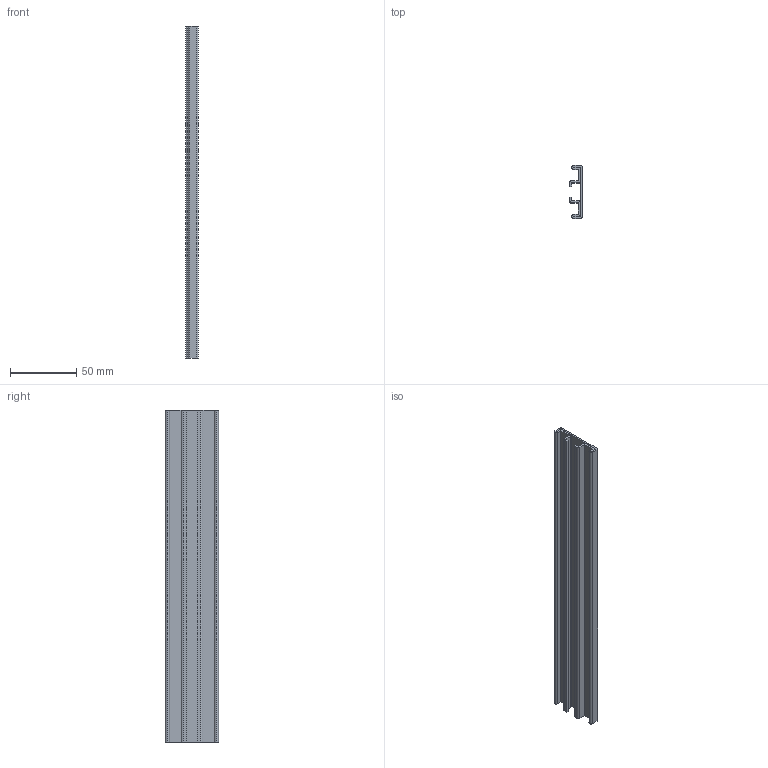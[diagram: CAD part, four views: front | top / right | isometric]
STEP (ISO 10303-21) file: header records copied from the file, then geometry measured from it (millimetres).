
FILE_DESCRIPTION (( 'STEP AP214' ), '1' );
FILE_NAME ('FGGRX 3x40x8.step', '2017-04-05T07:37:26', ( '' ), ( '' ), 'SwSTEP 2.0', 'SolidWorks 2015', '' );
FILE_SCHEMA (( 'AUTOMOTIVE_DESIGN' ));
Length unit declared in the file: millimetre
Products named in the file (1): FGGRX 3x40x8
Bounding box: 9.7 x 40 x 250 mm (x, y, z)
Volume: 37738.9 mm3; surface area: 51370.5 mm2
Topology: 1 solids, 1 shells, 42 faces, 120 edges, 80 vertices
Faces by surface type: plane 30, cylinder 12
Entity records: 1402 total; most frequent: CARTESIAN_POINT 243, ORIENTED_EDGE 240, DIRECTION 230, EDGE_CURVE 120, VECTOR 96, LINE 96, VERTEX_POINT 80, AXIS2_PLACEMENT_3D 67
